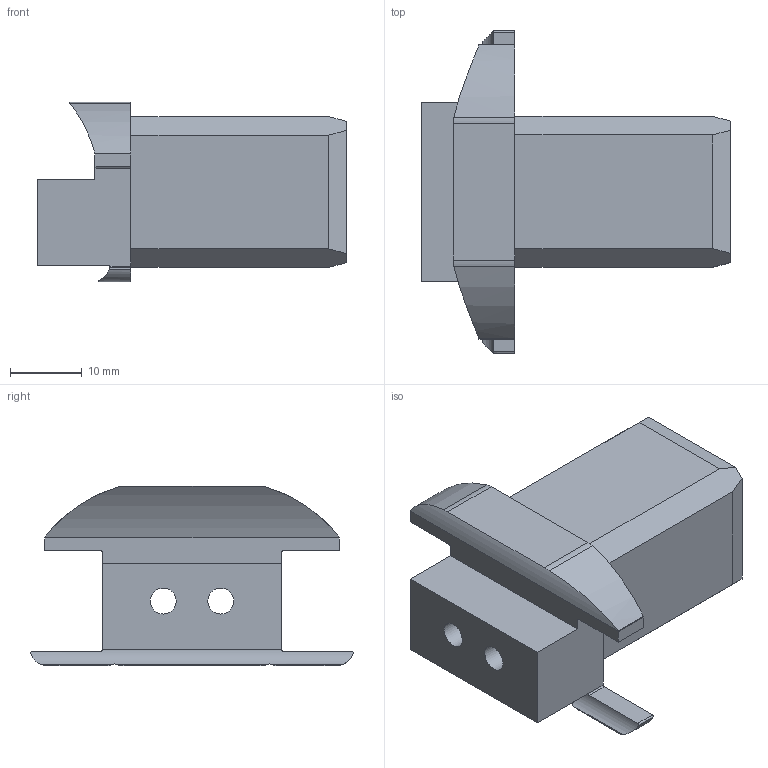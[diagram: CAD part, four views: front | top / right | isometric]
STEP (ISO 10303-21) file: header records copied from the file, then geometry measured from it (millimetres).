
FILE_DESCRIPTION (( 'STEP AP214' ), '1' );
FILE_NAME ('L15844.step', '2024-12-03T16:19:55', ( '' ), ( '' ), 'SwSTEP 2.0', 'SolidWorks 2023', '' );
FILE_SCHEMA (( 'AUTOMOTIVE_DESIGN' ));
Length unit declared in the file: millimetre
Products named in the file (1): L15844
Bounding box: 43 x 44.88 x 25 mm (x, y, z)
Volume: 12549.8 mm3; surface area: 7267.1 mm2
Topology: 1 solids, 1 shells, 60 faces, 170 edges, 114 vertices
Faces by surface type: plane 38, cylinder 22
Full cylindrical faces by diameter (mm): 3.6 x2
Entity records: 1985 total; most frequent: CARTESIAN_POINT 411, ORIENTED_EDGE 332, DIRECTION 306, EDGE_CURVE 166, LINE 116, VECTOR 116, VERTEX_POINT 112, AXIS2_PLACEMENT_3D 95
